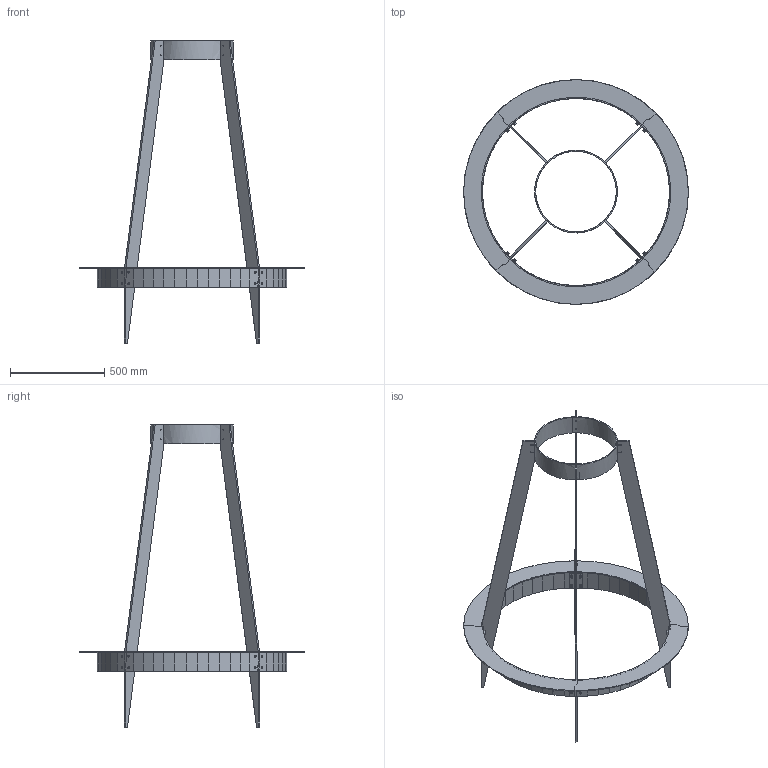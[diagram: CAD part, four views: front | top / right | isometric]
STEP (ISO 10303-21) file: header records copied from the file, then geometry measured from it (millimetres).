
FILE_DESCRIPTION(/* description */ (''),/* implementation_level */ '2;1');
FILE_NAME(/* name */ 'F3_HKR~1',/* time_stamp */ '2021-10-20T11:29:28+03:00',/* author */ (''),/* organization */ (''),/* preprocessor_version */ 'ST-DEVELOPER v16.5',/* originating_system */ '',/* authorisation */ '');
FILE_SCHEMA (('AUTOMOTIVE_DESIGN'));
Length unit declared in the file: millimetre
Products named in the file (1): Document
Bounding box: 1190.43 x 1190.43 x 1600 mm (x, y, z)
Volume: 9260808.8 mm3; surface area: 2845893.3 mm2
Topology: 34 solids, 34 shells, 655 faces, 1737 edges, 1158 vertices
Faces by surface type: plane 468, bspline 187
Entity records: 20428 total; most frequent: CARTESIAN_POINT 8732, ORIENTED_EDGE 3474, EDGE_CURVE 1737, B_SPLINE_CURVE_WITH_KNOTS 1317, VERTEX_POINT 1158, EDGE_LOOP 775, ADVANCED_FACE 655, FACE_OUTER_BOUND 655
